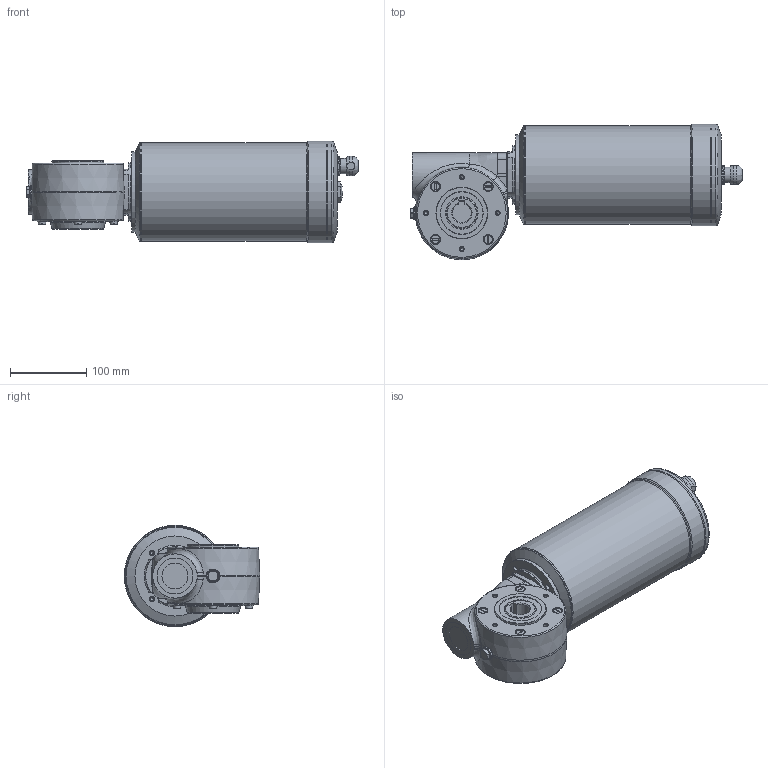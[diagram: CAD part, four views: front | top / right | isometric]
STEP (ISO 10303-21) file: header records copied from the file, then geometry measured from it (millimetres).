
FILE_DESCRIPTION( ( 'Unknown' ), '1' );
FILE_NAME( 'E:/services/configuratordownloads/customers/CLEANGEARTECH/VFN/download/E3755B1A2D45176962EE59706F729DB6/STEP/E3755B1A2D45176962EE59706F729DB6.3d.stp', 'Unknown', ( 'Unknown' ), ( 'Unknown' ), 'PSStep 10.1', 'Unknown', ' ' );
FILE_SCHEMA( ( 'AUTOMOTIVE_DESIGN { 1 0 10303 214 1 1 1 1 }' ) );
Length unit declared in the file: millimetre
Products named in the file (1): N508800
Bounding box: 435.5 x 177.72 x 133 mm (x, y, z)
Volume: 4582614.9 mm3; surface area: 233187.6 mm2
Topology: 1 solids, 20 shells, 498 faces, 1176 edges, 766 vertices
Faces by surface type: plane 193, cylinder 128, cone 100, torus 45, bspline 31, sphere 1
Full cylindrical faces by diameter (mm): 4.134 x1, 4.917 x30, 6 x8, 6.5 x4, 7 x9, 10 x4, 11 x4, 13.4 x1, 14 x1, 16.662 x1, 17 x1, 18 x1, 20 x1, 30 x1, 34 x1, 40 x1, 42.5 x2, 47 x1, 52 x1, 55 x1, 68 x2, 70 x2, 105 x1, 106 x1, 128.98 x1, 129 x2, 132.98 x2, 133 x3
Entity records: 20253 total; most frequent: CARTESIAN_POINT 6509, DIRECTION 2019, ORIENTED_EDGE 1726, AXIS2_PLACEMENT_3D 907, EDGE_CURVE 863, EDGE_LOOP 752, VERTEX_POINT 660, FACE_OUTER_BOUND 610
